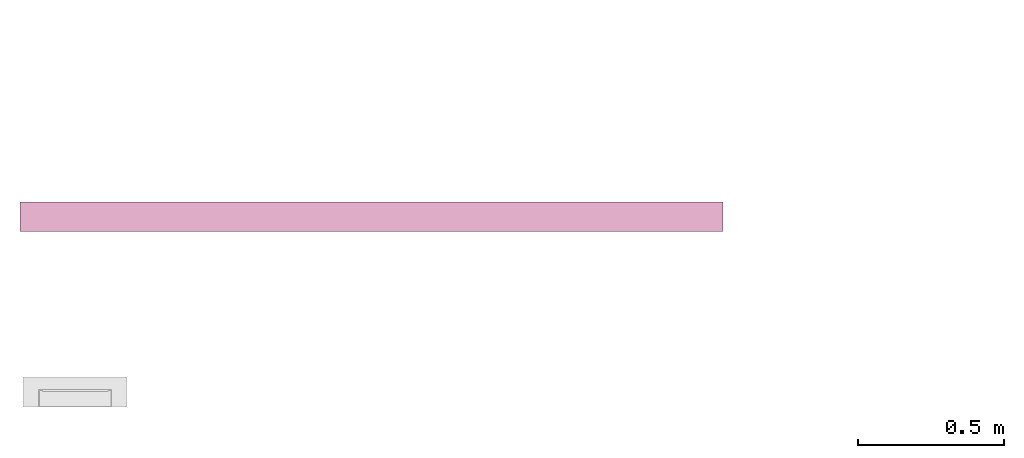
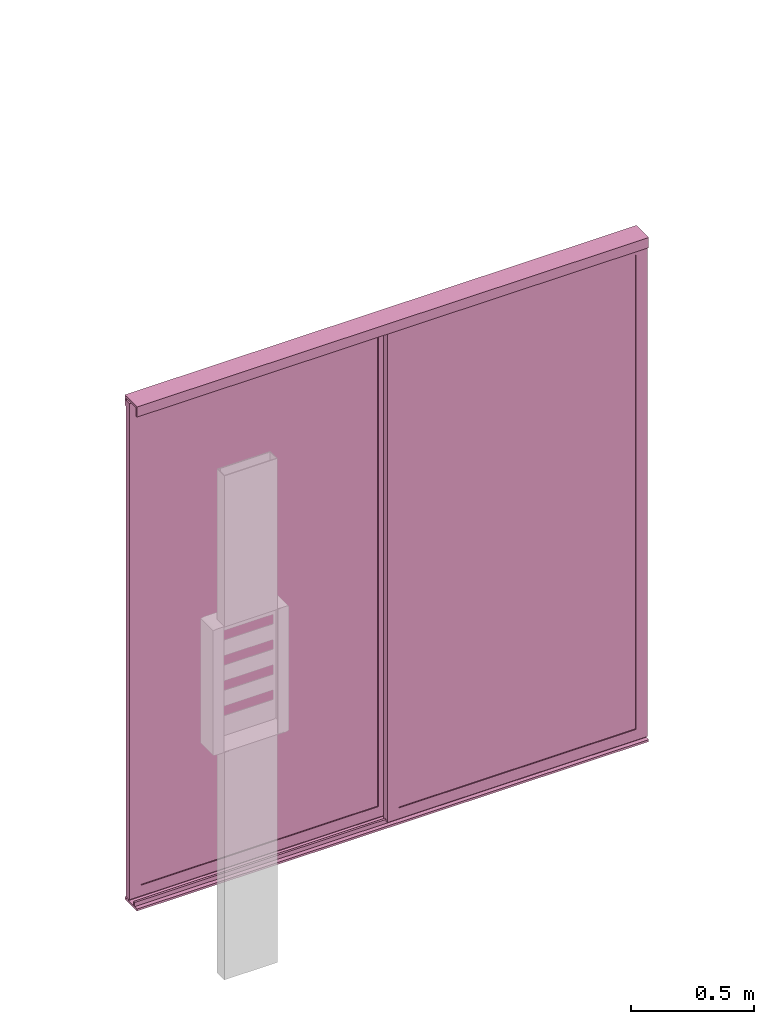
# One storey, part 2 of 3: 1 furnishing.
"""IFC2X3 building model written with IfcOpenShell, lengths in metres."""

import ifcopenshell
import ifcopenshell.guid

model = None  # the IFC model being written
_history = None  # IfcOwnerHistory: only IFC2X3 demands one
_inside = {}  # id of a spatial element -> (the spatial element, [elements in it])
_under = {}  # id of a project, library or spatial element -> (it, [spatial elements below it])
_declared = {}  # id of a project -> (the project, [libraries it declares])
_typed = {}  # id of a type object -> (the type object, [elements of that type])
_made_of = {}  # id of a material, layer set ... -> (it, [elements and type objects made of it])


def new_model(schema):
    """Start an empty IFC model of exactly this schema.

    Asked for "IFC4X3", IfcOpenShell would pick the latest addendum, in which some entities
    have other attributes; the version numbers below select the first issue.
    IFC2X3 requires an IfcOwnerHistory on every rooted entity: one is made here for all.
    """
    global model, _history
    if schema == "IFC4X3":
        model = ifcopenshell.file(schema_version=(4, 3, 0, 0))
    else:
        model = ifcopenshell.file(schema=schema)
    _inside.clear()
    _under.clear()
    _declared.clear()
    _typed.clear()
    _made_of.clear()
    _history = None
    if model.schema == "IFC2X3":
        org = make("IfcOrganization", Name="unknown")
        user = make(
            "IfcPersonAndOrganization",
            ThePerson=make("IfcPerson", FamilyName="unknown"),
            TheOrganization=org,
        )
        app = make(
            "IfcApplication",
            ApplicationDeveloper=org,
            Version="unknown",
            ApplicationFullName="unknown",
            ApplicationIdentifier="unknown",
        )
        _history = make(
            "IfcOwnerHistory",
            OwningUser=user,
            OwningApplication=app,
            ChangeAction="ADDED",
            CreationDate=0,
        )
    return model


def make(cls, **values):
    """One entity of the class cls with the attributes given. An attribute that is None is left unset."""
    return model.create_entity(
        cls, **{name: value for name, value in values.items() if value is not None}
    )


def entity(cls, *values):
    """Any entity or typed value of the class cls, its attributes in the order of the schema. None: left unset."""
    e = model.create_entity(cls)
    for i, value in enumerate(values):
        if value is not None:
            e[i] = value
    return e


def rooted(cls, **values):
    """An entity with a GlobalId (a new one), such as an element, a storey or a relation."""
    return make(cls, GlobalId=ifcopenshell.guid.new(), OwnerHistory=_history, **values)


def si_unit(unit_type, name, prefix=None):
    """IfcSIUnit, for example si_unit("LENGTHUNIT", "METRE", prefix="MILLI")."""
    return make("IfcSIUnit", UnitType=unit_type, Prefix=prefix, Name=name)


def converted_unit(unit_type, name, factor, base, dimensions=None, offset=None):
    """IfcConversionBasedUnit, such as the inch: factor (a typed value) times the base unit."""
    return make(
        "IfcConversionBasedUnit"
        if offset is None
        else "IfcConversionBasedUnitWithOffset",
        ConversionOffset=offset,
        Dimensions=None
        if dimensions is None
        else entity("IfcDimensionalExponents", *dimensions),
        UnitType=unit_type,
        Name=name,
        ConversionFactor=make(
            "IfcMeasureWithUnit", ValueComponent=factor, UnitComponent=base
        ),
    )


def derived_unit(unit_type, elements):
    """IfcDerivedUnit: a product of units, each with its exponent."""
    return make(
        "IfcDerivedUnit",
        Elements=[
            make("IfcDerivedUnitElement", Unit=unit, Exponent=power)
            for unit, power in elements
        ],
        UnitType=unit_type,
    )


def assignment(units):
    """IfcUnitAssignment: the units of a project."""
    return None if units is None else make("IfcUnitAssignment", Units=units)


def point(xyz):
    """IfcCartesianPoint."""
    return None if xyz is None else make("IfcCartesianPoint", Coordinates=xyz)


def direction(xyz):
    """IfcDirection."""
    return None if xyz is None else make("IfcDirection", DirectionRatios=xyz)


def frame(location, z_axis=None, x_axis=None):
    """IfcAxis2Placement3D, a coordinate frame: its origin and axes. An axis left out is left unset."""
    return make(
        "IfcAxis2Placement3D",
        Location=point(location),
        Axis=direction(z_axis),
        RefDirection=direction(x_axis),
    )


def origin():
    """The frame at (0, 0, 0) with its axes left unset."""
    return frame((0.0, 0.0, 0.0))


def place(relative_to, where):
    """IfcLocalPlacement: puts the frame where relative to a parent placement (None: the world)."""
    return make(
        "IfcLocalPlacement", PlacementRelTo=relative_to, RelativePlacement=where
    )


def context(
    kind, dimensions, precision=None, world=None, true_north=None, identifier=None
):
    """IfcGeometricRepresentationContext, for example the 3D "Model" context."""
    return make(
        "IfcGeometricRepresentationContext",
        ContextIdentifier=identifier,
        ContextType=kind,
        CoordinateSpaceDimension=dimensions,
        Precision=precision,
        WorldCoordinateSystem=world,
        TrueNorth=true_north,
    )


def subcontext(parent, identifier, kind, view, scale=None):
    """IfcGeometricRepresentationSubContext, for example "Body" below "Model"."""
    return make(
        "IfcGeometricRepresentationSubContext",
        ContextIdentifier=identifier,
        ContextType=kind,
        ParentContext=parent,
        TargetScale=scale,
        TargetView=view,
    )


def project(units=None, contexts=None):
    """IfcProject with its units and contexts."""
    return rooted(
        "IfcProject",
        Name="project",
        RepresentationContexts=contexts,
        UnitsInContext=assignment(units),
    )


def spatial(cls, under=None, at=None, **own):
    """A site, building, storey or space (cls), placed at a placement, below another one or the project."""
    s = rooted(cls, ObjectPlacement=at, **own)
    if under is not None:
        _under.setdefault(under.id(), (under, []))[1].append(s)
    return s


def faces_of(points, faces, orient=None, outer=None):
    """IfcFace entities. A face is a list of loops; a loop is a list of indices into points, from 0.

    orient and outer hold one flag for each loop. By default every Orientation is true, the
    first loop of a face is its IfcFaceOuterBound and the others are IfcFaceBound.
    """
    made = []
    for i, loops in enumerate(faces):
        bounds = []
        for j, loop in enumerate(loops):
            is_outer = j == 0 if outer is None else outer[i][j]
            bounds.append(
                make(
                    "IfcFaceOuterBound" if is_outer else "IfcFaceBound",
                    Bound=make("IfcPolyLoop", Polygon=[points[k] for k in loop]),
                    Orientation=True if orient is None else orient[i][j],
                )
            )
        made.append(make("IfcFace", Bounds=bounds))
    return made


def faceted_brep(points, faces, orient=None, outer=None, voids=None):
    """IfcFacetedBrep: a solid bounded by flat faces; with voids (closed shells), ...WithVoids."""
    shared = [point(p) for p in points]
    hull = make("IfcClosedShell", CfsFaces=faces_of(shared, faces, orient, outer))
    if voids is None:
        return make("IfcFacetedBrep", Outer=hull)
    return make(
        "IfcFacetedBrepWithVoids",
        Outer=hull,
        Voids=[
            make(cls, CfsFaces=faces_of(shared, fs, o, b)) for cls, fs, o, b in voids
        ],
    )


def shape(context_of_items, identifier, shape_type, items):
    """IfcShapeRepresentation: the items that make up one representation, for example the "Body"."""
    return make(
        "IfcShapeRepresentation",
        ContextOfItems=context_of_items,
        RepresentationIdentifier=identifier,
        RepresentationType=shape_type,
        Items=items,
    )


def source(mapping_origin, context_of_items, identifier, shape_type, items):
    """IfcRepresentationMap: a shape defined once, which mapped items show again and again."""
    return make(
        "IfcRepresentationMap",
        MappingOrigin=mapping_origin,
        MappedRepresentation=shape(context_of_items, identifier, shape_type, items),
    )


def transform(
    local_origin,
    x_axis=None,
    y_axis=None,
    z_axis=None,
    scale=None,
    scale2=None,
    scale3=None,
    uniform=True,
):
    """IfcCartesianTransformationOperator3D, or its non-uniform kind. x_axis, y_axis, z_axis: its Axis1, 2, 3."""
    if uniform:
        return make(
            "IfcCartesianTransformationOperator3D",
            Axis1=direction(x_axis),
            Axis2=direction(y_axis),
            LocalOrigin=point(local_origin),
            Scale=scale,
            Axis3=direction(z_axis),
        )
    return make(
        "IfcCartesianTransformationOperator3DnonUniform",
        Axis1=direction(x_axis),
        Axis2=direction(y_axis),
        LocalOrigin=point(local_origin),
        Scale=scale,
        Axis3=direction(z_axis),
        Scale2=scale2,
        Scale3=scale3,
    )


def mapped(mapping_source, mapping_target):
    """IfcMappedItem: shows the shape of a source again, moved by a transform."""
    return make(
        "IfcMappedItem", MappingSource=mapping_source, MappingTarget=mapping_target
    )


def material(Name=None, Category=None):
    """IfcMaterial."""
    return make("IfcMaterial", Name=Name, Category=Category)


def material_list(materials):
    """IfcMaterialList."""
    return make("IfcMaterialList", Materials=materials)


def made_of(thing, what):
    """Note that an element or type object is made of a material, layer set ...; save() writes the relation."""
    if what is not None:
        _made_of.setdefault(what.id(), (what, []))[1].append(thing)
    return thing


def type_object(cls, material=None, **own):
    """A type object (cls), such as IfcWallType, which elements share."""
    return made_of(rooted(cls, **own), material)


def type_shapes(of_type, sources):
    """Give a type object the sources (RepresentationMaps) that its elements show as mapped items."""
    of_type.RepresentationMaps = sources


def element(
    cls,
    number,
    at=None,
    inside=None,
    cuts=None,
    type_object=None,
    material=None,
    context=None,
    identifier="Body",
    shape_type=None,
    held_by="IfcProductDefinitionShape",
    body=None,
    shapes=None,
    **own,
):
    """One element of the class cls, such as IfcWall. Its Tag is "e" and its number.

    at: its placement. inside: the storey or other place that contains it. cuts: it is an
    opening in that element (IfcRelVoidsElement). A single representation is given by context,
    identifier, shape_type and body (its items); several are given by shapes. held_by: the class
    of the entity that holds the representations. save() writes the other relations.
    """
    e = rooted(cls, Tag="e%d" % number, ObjectPlacement=at, **own)
    if body is not None:
        shapes = [shape(context, identifier, shape_type, body)]
    if shapes is not None:
        e.Representation = make(held_by, Representations=shapes)
    if inside is not None:
        _inside.setdefault(inside.id(), (inside, []))[1].append(e)
    if cuts is not None:
        rooted(
            "IfcRelVoidsElement", RelatingBuildingElement=cuts, RelatedOpeningElement=e
        )
    if type_object is not None:
        _typed.setdefault(type_object.id(), (type_object, []))[1].append(e)
    return made_of(e, material)


def aggregate(whole, parts):
    """IfcRelAggregates: a whole, such as a stair, and the parts it consists of."""
    return rooted("IfcRelAggregates", RelatingObject=whole, RelatedObjects=parts)


def save(model, path):
    """Write the relations noted so far, then the file.

    IfcRelAggregates (storeys below a building ...), IfcRelContainedInSpatialStructure (elements
    in a storey), IfcRelDefinesByType, IfcRelAssociatesMaterial and IfcRelDeclares: one each for
    every whole, place, type object, material and project.
    """
    for whole, parts in _under.values():
        aggregate(whole, parts)
    for where, things in _inside.values():
        rooted(
            "IfcRelContainedInSpatialStructure",
            RelatedElements=things,
            RelatingStructure=where,
        )
    for kind, things in _typed.values():
        rooted("IfcRelDefinesByType", RelatedObjects=things, RelatingType=kind)
    for what, things in _made_of.values():
        rooted("IfcRelAssociatesMaterial", RelatedObjects=things, RelatingMaterial=what)
    for by, libraries in _declared.values():
        rooted("IfcRelDeclares", RelatingContext=by, RelatedDefinitions=libraries)
    model.write(path)


model = new_model("IFC2X3")

# Units and contexts
model_context = context("Model", 3, precision=1e-05, world=origin(), true_north=direction((6.123031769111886e-17, 1.0)))
body_context = subcontext(model_context, "Body", "Model", "MODEL_VIEW")
ifc_project = project(units=[si_unit("LENGTHUNIT", "METRE"), si_unit("AREAUNIT", "SQUARE_METRE"), si_unit("VOLUMEUNIT", "CUBIC_METRE"), converted_unit("PLANEANGLEUNIT", "DEGREE", entity("IfcRatioMeasure", 0.017453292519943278), si_unit("PLANEANGLEUNIT", "RADIAN"), dimensions=[0, 0, 0, 0, 0, 0, 0]), si_unit("MASSUNIT", "GRAM", prefix="KILO"), derived_unit("MASSDENSITYUNIT", [(si_unit("MASSUNIT", "GRAM", prefix="KILO"), 1), (si_unit("LENGTHUNIT", "METRE"), -3)]), derived_unit("IONCONCENTRATIONUNIT", [(si_unit("MASSUNIT", "GRAM", prefix="KILO"), 1), (si_unit("LENGTHUNIT", "METRE"), -3)]), derived_unit("MOMENTOFINERTIAUNIT", [(si_unit("LENGTHUNIT", "METRE"), 4)]), si_unit("TIMEUNIT", "SECOND"), si_unit("FREQUENCYUNIT", "HERTZ"), si_unit("THERMODYNAMICTEMPERATUREUNIT", "DEGREE_CELSIUS"), derived_unit("THERMALTRANSMITTANCEUNIT", [(si_unit("MASSUNIT", "GRAM", prefix="KILO"), 1), (si_unit("THERMODYNAMICTEMPERATUREUNIT", "KELVIN"), -1), (si_unit("TIMEUNIT", "SECOND"), -3)]), derived_unit("THERMALCONDUCTANCEUNIT", [(si_unit("MASSUNIT", "GRAM", prefix="KILO"), 1), (si_unit("THERMODYNAMICTEMPERATUREUNIT", "KELVIN"), -1), (si_unit("TIMEUNIT", "SECOND"), -3), (si_unit("LENGTHUNIT", "METRE"), 1)]), derived_unit("VOLUMETRICFLOWRATEUNIT", [(si_unit("LENGTHUNIT", "METRE"), 3), (si_unit("TIMEUNIT", "SECOND"), -1)]), derived_unit("MASSFLOWRATEUNIT", [(si_unit("MASSUNIT", "GRAM", prefix="KILO"), 1), (si_unit("TIMEUNIT", "SECOND"), -1)]), derived_unit("ROTATIONALFREQUENCYUNIT", [(si_unit("TIMEUNIT", "SECOND"), -1)]), si_unit("ELECTRICCURRENTUNIT", "AMPERE"), si_unit("ELECTRICVOLTAGEUNIT", "VOLT"), si_unit("POWERUNIT", "WATT"), si_unit("FORCEUNIT", "NEWTON", prefix="KILO"), si_unit("ILLUMINANCEUNIT", "LUX"), si_unit("LUMINOUSFLUXUNIT", "LUMEN"), si_unit("LUMINOUSINTENSITYUNIT", "CANDELA"), derived_unit("USERDEFINED", [(si_unit("MASSUNIT", "GRAM", prefix="KILO"), -1), (si_unit("LENGTHUNIT", "METRE"), -2), (si_unit("TIMEUNIT", "SECOND"), 3), (si_unit("LUMINOUSFLUXUNIT", "LUMEN"), 1)]), derived_unit("USERDEFINED", [(si_unit("MASSUNIT", "GRAM", prefix="KILO"), 1), (si_unit("TIMEUNIT", "SECOND"), -3), (si_unit("LENGTHUNIT", "METRE"), 3), (si_unit("ELECTRICCURRENTUNIT", "AMPERE"), -2)]), derived_unit("SOUNDPOWERUNIT", [(si_unit("MASSUNIT", "GRAM", prefix="KILO"), 1), (si_unit("TIMEUNIT", "SECOND"), -3), (si_unit("LENGTHUNIT", "METRE"), 2)]), derived_unit("SOUNDPRESSUREUNIT", [(si_unit("MASSUNIT", "GRAM", prefix="KILO"), 1), (si_unit("LENGTHUNIT", "METRE"), -1), (si_unit("TIMEUNIT", "SECOND"), -2)]), derived_unit("LINEARVELOCITYUNIT", [(si_unit("LENGTHUNIT", "METRE"), 1), (si_unit("TIMEUNIT", "SECOND"), -1)]), si_unit("PRESSUREUNIT", "PASCAL"), derived_unit("USERDEFINED", [(si_unit("MASSUNIT", "GRAM", prefix="KILO"), 1), (si_unit("LENGTHUNIT", "METRE"), -2), (si_unit("TIMEUNIT", "SECOND"), -2)]), derived_unit("LINEARFORCEUNIT", [(si_unit("MASSUNIT", "GRAM", prefix="KILO"), 1), (si_unit("TIMEUNIT", "SECOND"), -2)]), derived_unit("PLANARFORCEUNIT", [(si_unit("MASSUNIT", "GRAM", prefix="KILO"), 1), (si_unit("LENGTHUNIT", "METRE"), -1), (si_unit("TIMEUNIT", "SECOND"), -2)]), derived_unit("SPECIFICHEATCAPACITYUNIT", [(si_unit("THERMODYNAMICTEMPERATUREUNIT", "KELVIN"), -1), (si_unit("LENGTHUNIT", "METRE"), 2), (si_unit("TIMEUNIT", "SECOND"), -2)]), derived_unit("HEATINGVALUEUNIT", [(si_unit("LENGTHUNIT", "METRE"), 2), (si_unit("TIMEUNIT", "SECOND"), -2)]), derived_unit("VAPORPERMEABILITYUNIT", [(si_unit("LENGTHUNIT", "METRE"), -1), (si_unit("TIMEUNIT", "SECOND"), 1)]), derived_unit("DYNAMICVISCOSITYUNIT", [(si_unit("MASSUNIT", "GRAM", prefix="KILO"), 1), (si_unit("TIMEUNIT", "SECOND"), -1), (si_unit("LENGTHUNIT", "METRE"), -1)]), derived_unit("THERMALEXPANSIONCOEFFICIENTUNIT", [(si_unit("THERMODYNAMICTEMPERATUREUNIT", "KELVIN"), -1)]), derived_unit("MODULUSOFELASTICITYUNIT", [(si_unit("MASSUNIT", "GRAM", prefix="KILO"), 1), (si_unit("LENGTHUNIT", "METRE"), -1), (si_unit("TIMEUNIT", "SECOND"), -2)]), derived_unit("ISOTHERMALMOISTURECAPACITYUNIT", [(si_unit("LENGTHUNIT", "METRE"), 3), (si_unit("MASSUNIT", "GRAM", prefix="KILO"), -1)]), derived_unit("MOISTUREDIFFUSIVITYUNIT", [(si_unit("TIMEUNIT", "SECOND"), -1), (si_unit("LENGTHUNIT", "METRE"), 2)])], contexts=[model_context])

# Site, building, storey, space
site_placement = place(None, frame((1.2553507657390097, -0.6266432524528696, -1.0397761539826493), z_axis=(0.0, 0.0, 1.0), x_axis=(-1.0, 0.0, 0.0)))
site = spatial("IfcSite", under=ifc_project, at=site_placement, Name="Default", CompositionType="ELEMENT")
building_placement = place(site_placement, origin())
building = spatial("IfcBuilding", under=site, at=building_placement, Name="MAISON D'HABITATION", CompositionType="ELEMENT")
storey_placement = place(building_placement, frame((0.0, 0.0, 1.0397761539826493)))
storey = spatial("IfcBuildingStorey", under=building, at=storey_placement, Name="site", CompositionType="ELEMENT", Elevation=1.0397761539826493)
space_placement = place(storey_placement, origin())
space = spatial("IfcSpace", under=storey, at=space_placement, Name="06", CompositionType="ELEMENT", InteriorOrExteriorSpace="INTERNAL")

# Furnishing
ifc_material_1 = material(Name="Aluminuim blanc")
ifc_material_2 = material(Name="Stratifié, bleu marine")
ifc_material_list = material_list([ifc_material_1, ifc_material_2])
system_furniture_element_type = type_object("IfcSystemFurnitureElementType", Name="porte de placard:porte de placard 2.40", material=ifc_material_list)
shared_shape = source(origin(), body_context, "Body", "Brep", [
    faceted_brep([(0.01999999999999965, -0.009999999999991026, 2.479999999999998), (0.01999999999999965, -0.04, 2.4799999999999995), (0.019999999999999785, -0.04, 0.020000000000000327), (0.01999999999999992, -0.009999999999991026, 0.020000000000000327), (-0.03352759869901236, -0.015000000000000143, 2.426472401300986), (-0.033527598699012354, -0.009999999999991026, 2.4264724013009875), (-0.03352759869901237, -0.009999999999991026, 0.07352759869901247), (-0.03352759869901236, -0.015000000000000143, 0.07352759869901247), (-0.0035275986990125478, -0.034999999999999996, 2.456472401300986), (-0.003527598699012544, -0.015000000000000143, 2.4564724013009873), (-0.0035275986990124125, -0.015000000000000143, 0.04352759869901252), (-0.0035275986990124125, -0.034999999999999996, 0.04352759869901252), (-0.03352759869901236, -0.04, 2.426472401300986), (-0.033527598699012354, -0.034999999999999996, 2.4264724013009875), (-0.03352759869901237, -0.034999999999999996, 0.07352759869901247), (-0.03352759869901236, -0.04, 0.07352759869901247), (0.009999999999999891, -0.030000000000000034, 0.030000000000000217), (-1.1899999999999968, -0.030000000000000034, 0.03000000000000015), (-1.1899999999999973, -0.02000000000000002, 0.030000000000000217), (0.010000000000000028, -0.02000000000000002, 0.030000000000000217), (-1.1464724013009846, -0.009999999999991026, 0.07352759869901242), (-1.1464724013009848, -0.015000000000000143, 0.07352759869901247), (-1.1764724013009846, -0.015000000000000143, 0.04352759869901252), (-1.1764724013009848, -0.034999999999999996, 0.04352759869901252), (-1.1464724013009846, -0.034999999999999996, 0.07352759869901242), (-1.1464724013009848, -0.04, 0.07352759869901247), (-1.1999999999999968, -0.04, 0.020000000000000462), (-1.199999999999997, -0.04, 2.479999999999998), (-1.199999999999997, -0.009999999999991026, 2.4799999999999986), (-1.1999999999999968, -0.009999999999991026, 0.020000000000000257), (-1.1464724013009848, -0.009999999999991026, 2.426472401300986), (-1.1464724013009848, -0.015000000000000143, 2.426472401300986), (-1.1764724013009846, -0.015000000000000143, 2.456472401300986), (-1.1764724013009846, -0.034999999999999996, 2.456472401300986), (-1.1464724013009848, -0.034999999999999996, 2.426472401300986), (-1.1464724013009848, -0.04, 2.426472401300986), (0.010000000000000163, -0.030000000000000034, 0.020000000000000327), (-1.1899999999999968, -0.030000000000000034, 0.020000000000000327), (-1.1899999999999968, -0.02000000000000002, 0.020000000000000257), (0.010000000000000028, -0.02000000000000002, 0.020000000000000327)], [[[0, 1, 2, 3]], [[4, 5, 6, 7]], [[8, 9, 10, 11]], [[12, 13, 14, 15]], [[16, 17, 18, 19]], [[7, 6, 20, 21]], [[11, 10, 22, 23]], [[15, 14, 24, 25]], [[26, 27, 28, 29]], [[21, 20, 30, 31]], [[23, 22, 32, 33]], [[25, 24, 34, 35]], [[27, 1, 0, 28]], [[17, 16, 36, 37]], [[19, 18, 38, 39]], [[0, 3, 29, 28], [6, 5, 30, 20]], [[5, 4, 31, 30]], [[4, 7, 21, 31], [10, 9, 32, 22]], [[9, 8, 33, 32]], [[8, 11, 23, 33], [14, 13, 34, 24]], [[13, 12, 35, 34]], [[2, 1, 27, 26], [12, 15, 25, 35]], [[37, 38, 18, 17]], [[39, 36, 16, 19]], [[2, 26, 29, 3], [38, 37, 36, 39]]], outer=[[True], [True], [True], [True], [True], [True], [True], [True], [True], [True], [True], [True], [True], [True], [True], [True, False], [True], [False, True], [True], [True, False], [True], [True, False], [True], [True], [True, False]]),
    faceted_brep([(1.1999999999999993, -0.08999999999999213, 0.02000000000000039), (-0.019999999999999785, -0.08999999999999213, 0.020000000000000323), (-0.019999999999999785, -0.059999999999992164, 0.020000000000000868), (1.199999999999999, -0.059999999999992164, 0.020000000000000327), (-0.010000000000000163, -0.06999999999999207, 0.020000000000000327), (-0.010000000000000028, -0.07999999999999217, 0.020000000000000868), (1.189999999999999, -0.07999999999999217, 0.02000000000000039), (1.1899999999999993, -0.06999999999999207, 0.02000000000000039), (1.199999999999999, -0.059999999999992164, 2.479999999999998), (1.199999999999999, -0.08999999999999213, 2.4799999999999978), (1.146472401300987, -0.06499999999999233, 2.426472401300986), (1.146472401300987, -0.059999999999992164, 2.4264724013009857), (1.146472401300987, -0.059999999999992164, 0.07352759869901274), (1.146472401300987, -0.06499999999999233, 0.07352759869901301), (1.1764724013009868, -0.0849999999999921, 2.456472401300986), (1.1764724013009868, -0.06499999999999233, 2.4564724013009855), (1.176472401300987, -0.06499999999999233, 0.04352759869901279), (1.176472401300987, -0.0849999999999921, 0.04352759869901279), (1.146472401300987, -0.08999999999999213, 2.426472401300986), (1.146472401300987, -0.0849999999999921, 2.4264724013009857), (1.146472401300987, -0.0849999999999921, 0.07352759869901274), (1.146472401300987, -0.08999999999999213, 0.07352759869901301), (1.1899999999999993, -0.07999999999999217, 0.030000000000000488), (-0.010000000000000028, -0.07999999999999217, 0.030000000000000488), (-0.009999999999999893, -0.06999999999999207, 0.03000000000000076), (1.1899999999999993, -0.06999999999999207, 0.030000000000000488), (0.03352759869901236, -0.059999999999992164, 0.07352759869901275), (0.03352759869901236, -0.06499999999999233, 0.07352759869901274), (0.0035275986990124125, -0.06499999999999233, 0.04352759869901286), (0.0035275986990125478, -0.0849999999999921, 0.04352759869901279), (0.03352759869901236, -0.0849999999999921, 0.07352759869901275), (0.03352759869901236, -0.08999999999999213, 0.07352759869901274), (-0.01999999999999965, -0.08999999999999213, 2.479999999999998), (-0.01999999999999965, -0.059999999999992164, 2.479999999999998), (0.033527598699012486, -0.059999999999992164, 2.426472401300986), (0.033527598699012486, -0.06499999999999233, 2.4264724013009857), (0.0035275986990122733, -0.06499999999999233, 2.456472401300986), (0.0035275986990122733, -0.0849999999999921, 2.456472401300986), (0.033527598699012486, -0.0849999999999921, 2.426472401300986), (0.033527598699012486, -0.08999999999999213, 2.4264724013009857)], [[[0, 1, 2, 3], [4, 5, 6, 7]], [[8, 9, 0, 3]], [[10, 11, 12, 13]], [[14, 15, 16, 17]], [[18, 19, 20, 21]], [[22, 23, 24, 25]], [[13, 12, 26, 27]], [[17, 16, 28, 29]], [[21, 20, 30, 31]], [[1, 32, 33, 2]], [[27, 26, 34, 35]], [[29, 28, 36, 37]], [[31, 30, 38, 39]], [[23, 22, 6, 5]], [[25, 24, 4, 7]], [[8, 3, 2, 33], [12, 11, 34, 26]], [[11, 10, 35, 34]], [[10, 13, 27, 35], [16, 15, 36, 28]], [[15, 14, 37, 36]], [[14, 17, 29, 37], [20, 19, 38, 30]], [[19, 18, 39, 38]], [[0, 9, 32, 1], [18, 21, 31, 39]], [[5, 4, 24, 23]], [[7, 6, 22, 25]], [[32, 9, 8, 33]]], outer=[[True, False], [True], [True], [True], [True], [True], [True], [True], [True], [True], [True], [True], [True], [True], [True], [True, False], [True], [False, True], [True], [True, False], [True], [True, False], [True], [True], [True]]),
    faceted_brep([(1.1764724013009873, -0.08499999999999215, 2.456472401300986), (0.003527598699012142, -0.08499999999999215, 2.4564724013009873), (0.0035275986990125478, -0.08499999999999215, 0.04352759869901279), (1.1764724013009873, -0.08499999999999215, 0.04352759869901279), (1.1764724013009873, -0.06499999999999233, 2.456472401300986), (1.1764724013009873, -0.06499999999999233, 0.04352759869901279), (0.0035275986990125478, -0.06499999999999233, 0.04352759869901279), (0.003527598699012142, -0.06499999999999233, 2.4564724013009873)], [[[0, 1, 2, 3]], [[4, 5, 6, 7]], [[1, 0, 4, 7]], [[2, 1, 7, 6]], [[3, 2, 6, 5]], [[0, 3, 5, 4]]]),
    faceted_brep([(-0.0035275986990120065, -0.03499999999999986, 2.456472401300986), (-1.176472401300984, -0.03499999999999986, 2.456472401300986), (-1.176472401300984, -0.03499999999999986, 0.04352759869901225), (-0.0035275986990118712, -0.03499999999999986, 0.04352759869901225), (-0.0035275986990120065, -0.015000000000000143, 2.456472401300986), (-0.0035275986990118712, -0.015000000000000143, 0.04352759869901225), (-1.176472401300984, -0.015000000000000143, 0.04352759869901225), (-1.176472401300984, -0.015000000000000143, 2.456472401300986)], [[[0, 1, 2, 3]], [[4, 5, 6, 7]], [[1, 0, 4, 7]], [[2, 1, 7, 6]], [[3, 2, 6, 5]], [[0, 3, 5, 4]]]),
    faceted_brep([(1.1999999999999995, -0.1, 0.0), (1.1999999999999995, 0.0, 0.0), (1.1999999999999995, 0.0, 0.009999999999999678), (1.1999999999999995, -0.02000000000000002, 0.010000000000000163), (1.1999999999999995, -0.02000000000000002, 0.029999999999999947), (1.1999999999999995, -0.030000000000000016, 0.029999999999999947), (1.1999999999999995, -0.030000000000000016, 0.009999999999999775), (1.1999999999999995, -0.07, 0.009999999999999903), (1.1999999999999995, -0.06999999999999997, 0.02999999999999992), (1.1999999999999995, -0.07999999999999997, 0.02999999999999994), (1.1999999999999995, -0.08, 0.009999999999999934), (1.1999999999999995, -0.1, 0.01), (-1.1999999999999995, -0.1, 0.0), (-1.1999999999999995, -0.1, 0.01), (-1.1999999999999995, -0.08, 0.009999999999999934), (-1.1999999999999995, -0.07999999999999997, 0.02999999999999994), (-1.1999999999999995, -0.06999999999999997, 0.029999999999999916), (-1.1999999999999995, -0.07, 0.009999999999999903), (-1.1999999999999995, -0.030000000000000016, 0.009999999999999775), (-1.1999999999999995, -0.030000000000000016, 0.029999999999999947), (-1.1999999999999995, -0.02000000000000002, 0.029999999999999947), (-1.1999999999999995, -0.02000000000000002, 0.010000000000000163), (-1.1999999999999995, 0.0, 0.009999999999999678), (-1.1999999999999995, 0.0, 0.0)], [[[0, 1, 2, 3, 4, 5, 6, 7, 8, 9, 10, 11]], [[12, 13, 14, 15, 16, 17, 18, 19, 20, 21, 22, 23]], [[1, 0, 12, 23]], [[2, 1, 23, 22]], [[7, 6, 18, 17]], [[0, 11, 13, 12]], [[3, 2, 22, 21]], [[4, 3, 21, 20]], [[5, 4, 20, 19]], [[6, 5, 19, 18]], [[8, 7, 17, 16]], [[9, 8, 16, 15]], [[10, 9, 15, 14]], [[11, 10, 14, 13]]]),
    faceted_brep([(1.1999999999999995, -0.09999999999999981, 2.4499999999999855), (1.1999999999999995, -0.09999999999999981, 2.499999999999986), (-1.1999999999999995, -0.09999999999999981, 2.499999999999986), (-1.1999999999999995, -0.09999999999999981, 2.4499999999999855), (1.1999999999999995, -0.0899999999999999, 2.4499999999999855), (-1.1999999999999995, -0.0899999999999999, 2.4499999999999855), (1.1999999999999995, -0.0899999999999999, 2.4899999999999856), (-1.1999999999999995, -0.0899999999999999, 2.4899999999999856), (1.1999999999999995, -0.009999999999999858, 2.4899999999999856), (-1.1999999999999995, -0.009999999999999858, 2.4899999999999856), (1.1999999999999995, -0.009999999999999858, 2.4499999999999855), (-1.1999999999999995, -0.009999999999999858, 2.4499999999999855), (1.1999999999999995, 0.0, 2.4499999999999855), (-1.1999999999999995, 0.0, 2.4499999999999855), (1.1999999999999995, 0.0, 2.499999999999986), (-1.1999999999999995, 0.0, 2.499999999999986)], [[[0, 1, 2, 3]], [[4, 0, 3, 5]], [[6, 4, 5, 7]], [[8, 6, 7, 9]], [[10, 8, 9, 11]], [[12, 10, 11, 13]], [[14, 12, 13, 15]], [[1, 14, 15, 2]], [[2, 15, 13, 11, 9, 7, 5, 3]], [[1, 0, 4, 6, 8, 10, 12, 14]]]),
])
type_shapes(system_furniture_element_type, [shared_shape])
furnishing_placement = place(space_placement, frame((2.7801330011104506, -0.9738169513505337, 0.0)))
element("IfcFurnishingElement", 1, at=furnishing_placement, inside=space, type_object=system_furniture_element_type, material=ifc_material_list, Name="porte de placard:porte de placard 2.40", ObjectType="porte de placard:porte de placard 2.40", context=body_context, shape_type="MappedRepresentation", body=[
    mapped(shared_shape, transform((0.0, 0.0, 0.0), scale=1.0)),
])

save(model, "model.ifc")
